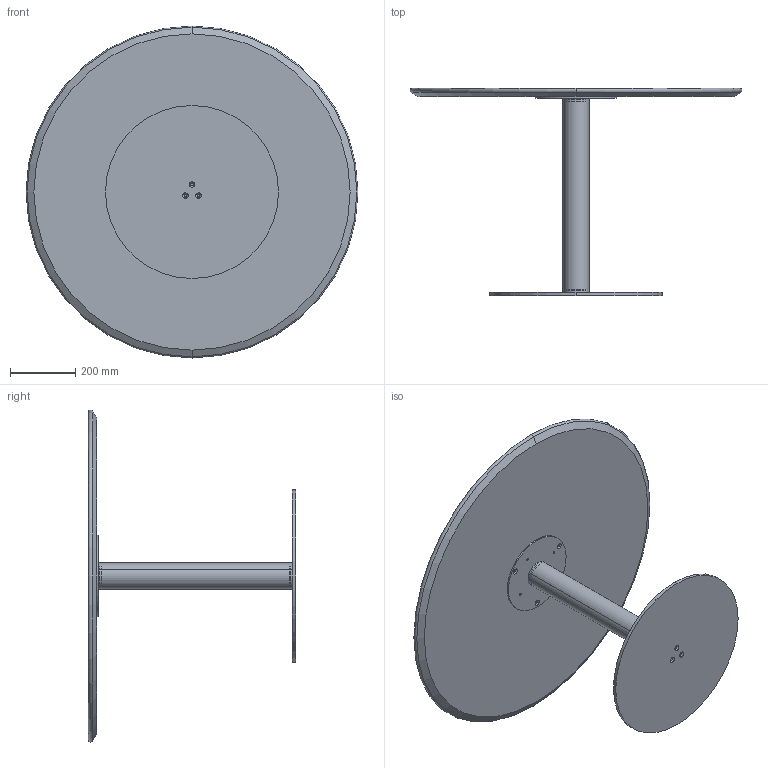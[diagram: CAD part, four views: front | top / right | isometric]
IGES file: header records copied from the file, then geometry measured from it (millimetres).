
Start section: SolidWorks IGES file using analytic representation for surfaces
Global section: file name: Y:\eforma\TECNICO\SOLIDWORKS\E-FORMA\5-TAVOLINI BISTRO\CILINDRO BISTRÒ H63\02 parts\CB35A.IGS; native system: SolidWorks 2022; preprocessor: SolidWorks 2022; author: eforma.tech; date: 240808.110051; units: millimetre
Bounding box: 1016.79 x 635 x 1017 mm (x, y, z)
Volume: 22503308.7 mm3; surface area: 4142491 mm2
Topology: 7 solids, 7 shells, 107 faces, 248 edges, 156 vertices
Faces by surface type: revolution 92, plane 15
